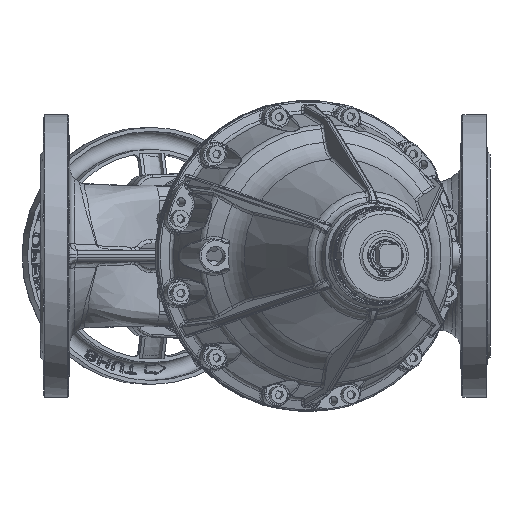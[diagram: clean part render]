
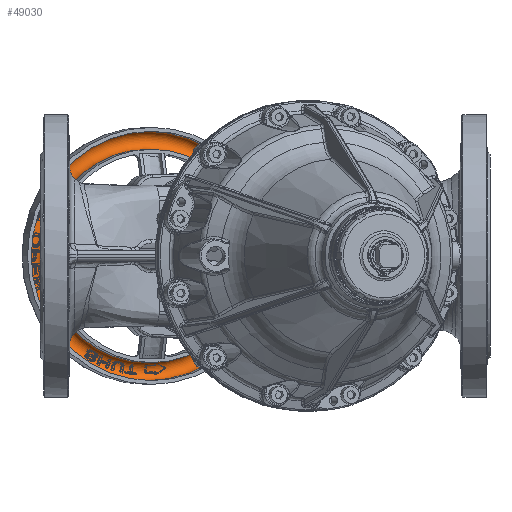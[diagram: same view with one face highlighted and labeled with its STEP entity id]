
A CAD part, front view. The second image highlights one B-rep face of the part: STEP entity #49030.
In plain terms, the highlighted toroidal (fillet/blend) face has major radius 90 mm and minor radius 7 mm.
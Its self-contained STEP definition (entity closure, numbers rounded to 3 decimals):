
#6901 = AXIS2_PLACEMENT_3D ( 'NONE', #6936, #6934, #6932 ) ;
#6904 = CIRCLE ( 'NONE', #7000, 97. ) ;
#6932 = DIRECTION ( 'NONE',  ( 0., 0., -1. ) ) ;
#6934 = DIRECTION ( 'NONE',  ( 0.259, -0.966, 0. ) ) ;
#6936 = CARTESIAN_POINT ( 'NONE',  ( -78.137, 291.613, 0. ) ) ;
#6940 = CIRCLE ( 'NONE', #6901, 83. ) ;
#6960 = FACE_OUTER_BOUND ( 'NONE', #49010, .T. ) ;
#6996 = DIRECTION ( 'NONE',  ( 0., 0., -1. ) ) ;
#6997 = DIRECTION ( 'NONE',  ( 0.259, -0.966, 0. ) ) ;
#6998 = CARTESIAN_POINT ( 'NONE',  ( -78.137, 291.613, 0. ) ) ;
#7000 = AXIS2_PLACEMENT_3D ( 'NONE', #6998, #6997, #6996 ) ;
#7033 = CARTESIAN_POINT ( 'NONE',  ( -78.137, 291.613, 0. ) ) ;
#7041 = DIRECTION ( 'NONE',  ( 0., 0., -1. ) ) ;
#7042 = DIRECTION ( 'NONE',  ( 0.259, -0.966, 0. ) ) ;
#7046 = AXIS2_PLACEMENT_3D ( 'NONE', #7033, #7042, #7041 ) ;
#7048 = TOROIDAL_SURFACE ( 'NONE', #7046, 90., 7. ) ;
#7059 = FACE_OUTER_BOUND ( 'NONE', #48538, .T. ) ;
#48507 = ORIENTED_EDGE ( 'NONE', *, *, #48549, .F. ) ;
#48538 = EDGE_LOOP ( 'NONE', ( #48507 ) ) ;
#48549 = EDGE_CURVE ( 'NONE', #164043, #164043, #6940, .T. ) ;
#48754 = EDGE_CURVE ( 'NONE', #164040, #164040, #6904, .T. ) ;
#49006 = ORIENTED_EDGE ( 'NONE', *, *, #48754, .T. ) ;
#49010 = EDGE_LOOP ( 'NONE', ( #49006 ) ) ;
#49030 = ADVANCED_FACE ( 'NONE', ( #7059, #6960 ), #7048, .F. ) ;
#164037 = CARTESIAN_POINT ( 'NONE',  ( -78.137, 291.613, -97. ) ) ;
#164040 = VERTEX_POINT ( 'NONE', #164037 ) ;
#164041 = CARTESIAN_POINT ( 'NONE',  ( -78.137, 291.613, -83. ) ) ;
#164043 = VERTEX_POINT ( 'NONE', #164041 ) ;
